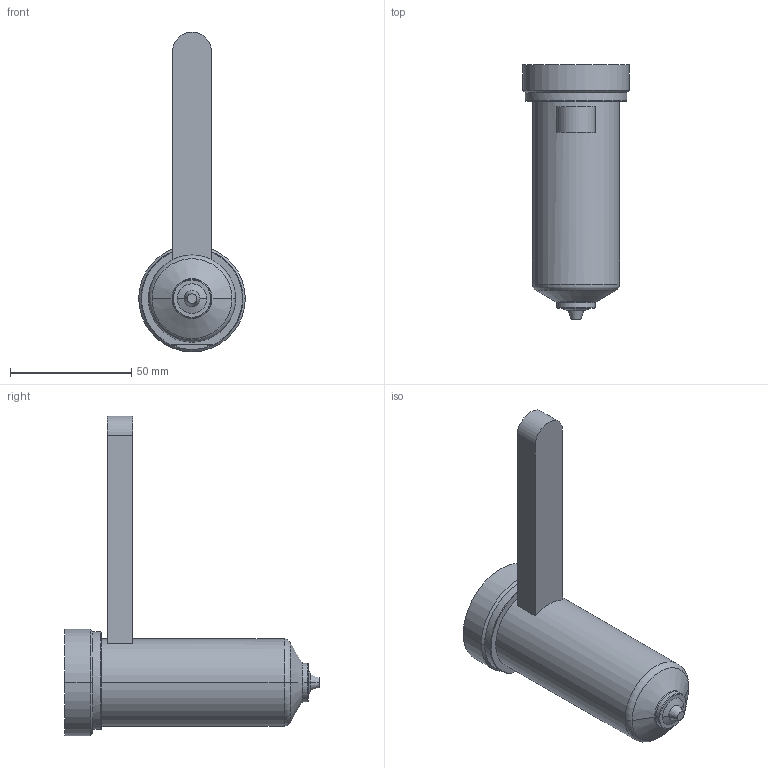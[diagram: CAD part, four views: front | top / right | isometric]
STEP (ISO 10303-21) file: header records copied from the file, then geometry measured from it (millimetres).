
FILE_DESCRIPTION((''),'2;1');
FILE_NAME('EO12_VG-BL_STD_090_COT','2024-02-19T13:13:24',('sundharh'),(''),'CREO PARAMETRIC BY PTC INC, 2023154','CREO PARAMETRIC BY PTC INC, 2023154','');
FILE_SCHEMA(('CONFIG_CONTROL_DESIGN'));
Length unit declared in the file: millimetre
Products named in the file (1): EO12_VG-BL_STD_090_COT
Bounding box: 44 x 105 x 132 mm (x, y, z)
Volume: 119881.7 mm3; surface area: 18782.5 mm2
Topology: 1 solids, 1 shells, 38 faces, 81 edges, 48 vertices
Faces by surface type: cylinder 11, plane 10, torus 9, cone 6, sphere 2
Entity records: 1135 total; most frequent: CARTESIAN_POINT 247, DIRECTION 199, ORIENTED_EDGE 162, AXIS2_PLACEMENT_3D 86, EDGE_CURVE 81, VERTEX_POINT 48, CIRCLE 48, EDGE_LOOP 41
